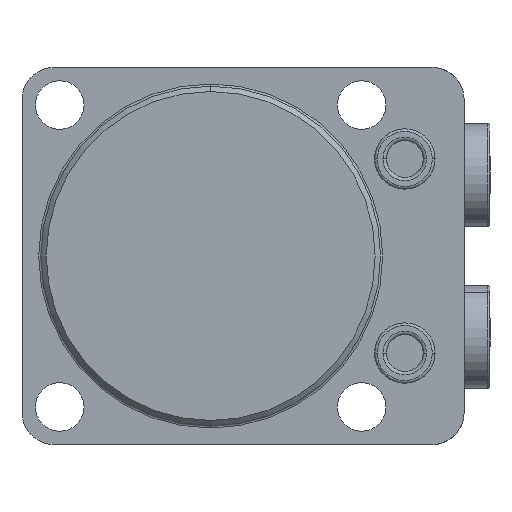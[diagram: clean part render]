
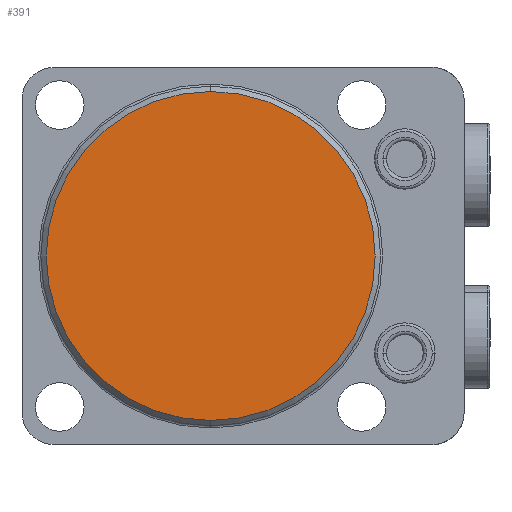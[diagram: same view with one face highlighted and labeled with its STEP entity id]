
A CAD part, front view. The second image highlights one B-rep face of the part: STEP entity #391.
In plain terms, the highlighted planar face has unit normal (0, -1, 0) as drawn and (0, 1, 0) by its records, which use the part's own axes.
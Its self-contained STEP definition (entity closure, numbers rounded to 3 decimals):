
#229=PLANE('',#3160);
#391=ADVANCED_FACE('',(#635),#229,.T.);
#635=FACE_OUTER_BOUND('',#813,.F.);
#813=EDGE_LOOP('',(#1414,#1415));
#1042=CIRCLE('',#3124,30.5);
#1064=CIRCLE('',#3159,30.5);
#1414=ORIENTED_EDGE('',*,*,#2446,.T.);
#1415=ORIENTED_EDGE('',*,*,#2385,.T.);
#2098=VERTEX_POINT('',#4638);
#2099=VERTEX_POINT('',#4639);
#2385=EDGE_CURVE('',#2098,#2099,#1042,.T.);
#2446=EDGE_CURVE('',#2099,#2098,#1064,.T.);
#3124=AXIS2_PLACEMENT_3D('',#4637,#3668,#3669);
#3159=AXIS2_PLACEMENT_3D('',#4767,#3772,#3773);
#3160=AXIS2_PLACEMENT_3D('',#4768,#3774,#3775);
#3668=DIRECTION('',(0.,-1.,0.));
#3669=DIRECTION('',(0.,0.,1.));
#3772=DIRECTION('',(0.,-1.,0.));
#3773=DIRECTION('',(0.,0.,1.));
#3774=DIRECTION('',(0.,1.,0.));
#3775=DIRECTION('',(0.,0.,-1.));
#4637=CARTESIAN_POINT('',(0.,0.,0.));
#4638=CARTESIAN_POINT('',(0.,0.,-30.5));
#4639=CARTESIAN_POINT('',(0.,0.,30.5));
#4767=CARTESIAN_POINT('',(0.,0.,0.));
#4768=CARTESIAN_POINT('',(-35.,0.,35.));
